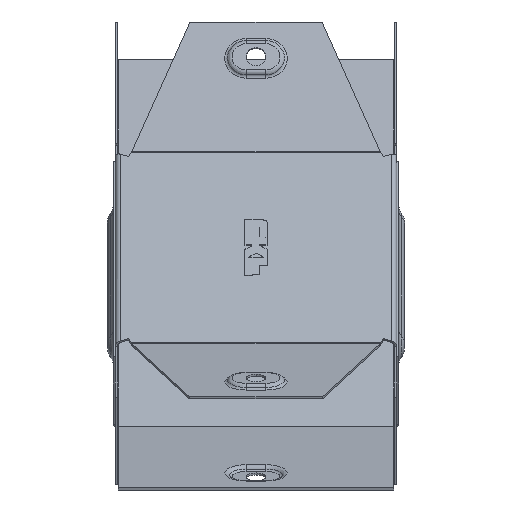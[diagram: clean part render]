
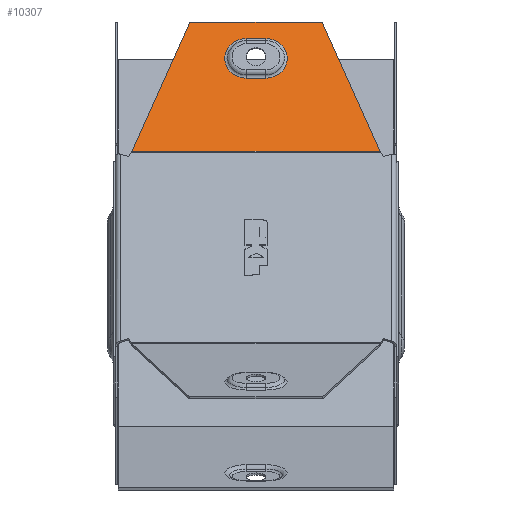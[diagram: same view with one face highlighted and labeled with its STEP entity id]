
A CAD part, front view. The second image highlights one B-rep face of the part: STEP entity #10307.
In plain terms, the highlighted planar face has unit normal (0, -0.924, 0.383).
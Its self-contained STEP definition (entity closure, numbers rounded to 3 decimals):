
#193 = DIRECTION ( 'NONE',  ( -0.383, -0.354, -0.854 ) ) ;
#250 = EDGE_LOOP ( 'NONE', ( #806, #705, #13795, #12175 ) ) ;
#437 = DIRECTION ( 'NONE',  ( -1., 0., 0. ) ) ;
#705 = ORIENTED_EDGE ( 'NONE', *, *, #9928, .T. ) ;
#806 = ORIENTED_EDGE ( 'NONE', *, *, #12462, .T. ) ;
#836 = CARTESIAN_POINT ( 'NONE',  ( 48.2, 70.076, -1.934 ) ) ;
#972 = VERTEX_POINT ( 'NONE', #8332 ) ;
#1083 = DIRECTION ( 'NONE',  ( 0., 0.383, 0.924 ) ) ;
#1229 = VECTOR ( 'NONE', #437, 1000. ) ;
#1363 = DIRECTION ( 'NONE',  ( 0., 0.924, -0.383 ) ) ;
#1695 = VECTOR ( 'NONE', #5190, 1000. ) ;
#1771 = VERTEX_POINT ( 'NONE', #2471 ) ;
#1876 = VECTOR ( 'NONE', #13575, 1000. ) ;
#1979 = DIRECTION ( 'NONE',  ( 0., 0.383, 0.924 ) ) ;
#2043 = AXIS2_PLACEMENT_3D ( 'NONE', #6297, #9472, #1979 ) ;
#2316 = CARTESIAN_POINT ( 'NONE',  ( -45.217, 69.07, -4.363 ) ) ;
#2434 = VERTEX_POINT ( 'NONE', #5890 ) ;
#2471 = CARTESIAN_POINT ( 'NONE',  ( 23.5, 89.134, 44.076 ) ) ;
#2830 = AXIS2_PLACEMENT_3D ( 'NONE', #7968, #1363, #5802 ) ;
#3269 = CARTESIAN_POINT ( 'NONE',  ( 48.2, 89.134, 44.076 ) ) ;
#3303 = PLANE ( 'NONE',  #6653 ) ;
#3349 = DIRECTION ( 'NONE',  ( 0., 0.924, -0.383 ) ) ;
#3396 = EDGE_CURVE ( 'NONE', #13669, #2434, #5388, .T. ) ;
#3641 = EDGE_LOOP ( 'NONE', ( #11761, #6788, #3756, #8187 ) ) ;
#3756 = ORIENTED_EDGE ( 'NONE', *, *, #5119, .T. ) ;
#4628 = LINE ( 'NONE', #12107, #12961 ) ;
#4769 = LINE ( 'NONE', #8365, #1876 ) ;
#5119 = EDGE_CURVE ( 'NONE', #11206, #12653, #9092, .T. ) ;
#5190 = DIRECTION ( 'NONE',  ( -1., 0., 0. ) ) ;
#5388 = CIRCLE ( 'NONE', #2043, 7.598 ) ;
#5440 = EDGE_CURVE ( 'NONE', #1771, #11206, #10280, .T. ) ;
#5802 = DIRECTION ( 'NONE',  ( 0., 0.383, 0.924 ) ) ;
#5890 = CARTESIAN_POINT ( 'NONE',  ( -3.5, 86.684, 38.162 ) ) ;
#5990 = DIRECTION ( 'NONE',  ( 1., 0., 0. ) ) ;
#6297 = CARTESIAN_POINT ( 'NONE',  ( -3.5, 83.777, 31.142 ) ) ;
#6653 = AXIS2_PLACEMENT_3D ( 'NONE', #8804, #3349, #1083 ) ;
#6660 = LINE ( 'NONE', #12142, #1229 ) ;
#6788 = ORIENTED_EDGE ( 'NONE', *, *, #5440, .T. ) ;
#7223 = CARTESIAN_POINT ( 'NONE',  ( 3.5, 86.684, 38.162 ) ) ;
#7479 = LINE ( 'NONE', #836, #1695 ) ;
#7947 = EDGE_CURVE ( 'NONE', #972, #1771, #4769, .T. ) ;
#7968 = CARTESIAN_POINT ( 'NONE',  ( 3.5, 83.777, 31.142 ) ) ;
#8130 = CARTESIAN_POINT ( 'NONE',  ( -3.5, 80.869, 24.122 ) ) ;
#8187 = ORIENTED_EDGE ( 'NONE', *, *, #13980, .F. ) ;
#8332 = CARTESIAN_POINT ( 'NONE',  ( 44.128, 70.076, -1.934 ) ) ;
#8365 = CARTESIAN_POINT ( 'NONE',  ( 23.5, 89.134, 44.076 ) ) ;
#8691 = CIRCLE ( 'NONE', #2830, 7.598 ) ;
#8804 = CARTESIAN_POINT ( 'NONE',  ( 48.2, 70., -2.118 ) ) ;
#9023 = FACE_BOUND ( 'NONE', #250, .T. ) ;
#9092 = LINE ( 'NONE', #2316, #10639 ) ;
#9472 = DIRECTION ( 'NONE',  ( 0., 0.924, -0.383 ) ) ;
#9698 = FACE_OUTER_BOUND ( 'NONE', #3641, .T. ) ;
#9770 = VECTOR ( 'NONE', #9778, 1000. ) ;
#9778 = DIRECTION ( 'NONE',  ( -1., 0., 0. ) ) ;
#9928 = EDGE_CURVE ( 'NONE', #11613, #11795, #8691, .T. ) ;
#10280 = LINE ( 'NONE', #3269, #9770 ) ;
#10307 = ADVANCED_FACE ( 'NONE', ( #9023, #9698 ), #3303, .F. ) ;
#10639 = VECTOR ( 'NONE', #193, 1000. ) ;
#11206 = VERTEX_POINT ( 'NONE', #13178 ) ;
#11315 = CARTESIAN_POINT ( 'NONE',  ( -44.128, 70.076, -1.934 ) ) ;
#11613 = VERTEX_POINT ( 'NONE', #7223 ) ;
#11761 = ORIENTED_EDGE ( 'NONE', *, *, #7947, .T. ) ;
#11795 = VERTEX_POINT ( 'NONE', #12066 ) ;
#12066 = CARTESIAN_POINT ( 'NONE',  ( 3.5, 80.869, 24.122 ) ) ;
#12107 = CARTESIAN_POINT ( 'NONE',  ( 3.5, 86.684, 38.162 ) ) ;
#12142 = CARTESIAN_POINT ( 'NONE',  ( 3.5, 80.869, 24.122 ) ) ;
#12175 = ORIENTED_EDGE ( 'NONE', *, *, #3396, .T. ) ;
#12462 = EDGE_CURVE ( 'NONE', #2434, #11613, #4628, .T. ) ;
#12653 = VERTEX_POINT ( 'NONE', #11315 ) ;
#12743 = EDGE_CURVE ( 'NONE', #11795, #13669, #6660, .T. ) ;
#12961 = VECTOR ( 'NONE', #5990, 1000. ) ;
#13178 = CARTESIAN_POINT ( 'NONE',  ( -23.5, 89.134, 44.076 ) ) ;
#13575 = DIRECTION ( 'NONE',  ( -0.383, 0.354, 0.854 ) ) ;
#13669 = VERTEX_POINT ( 'NONE', #8130 ) ;
#13795 = ORIENTED_EDGE ( 'NONE', *, *, #12743, .T. ) ;
#13980 = EDGE_CURVE ( 'NONE', #972, #12653, #7479, .T. ) ;
